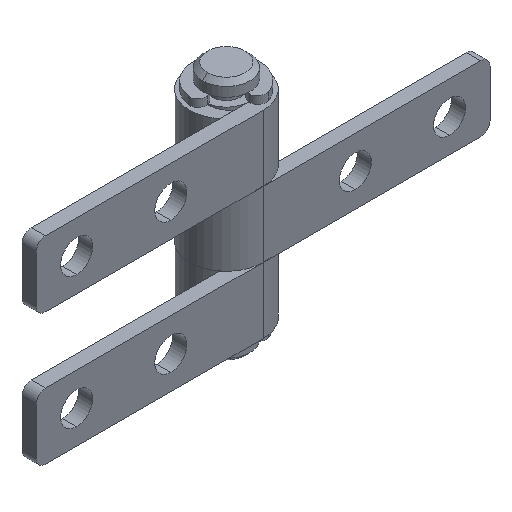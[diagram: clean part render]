
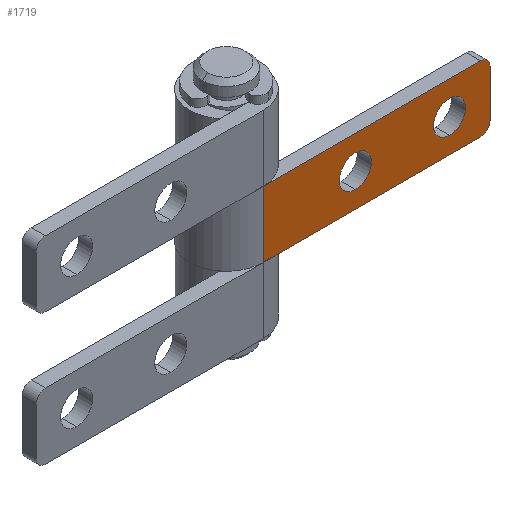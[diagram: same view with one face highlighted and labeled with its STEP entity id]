
A CAD part, isometric view. The second image highlights one B-rep face of the part: STEP entity #1719.
In plain terms, the highlighted planar face has unit normal (0, -1, 0).
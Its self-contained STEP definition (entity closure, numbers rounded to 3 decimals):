
#5 = EDGE_CURVE ( 'NONE', #1187, #631, #1209, .T. ) ;
#21 = AXIS2_PLACEMENT_3D ( 'NONE', #98, #1838, #1385 ) ;
#98 = CARTESIAN_POINT ( 'NONE',  ( 23.1, -3.9, 2.5 ) ) ;
#120 = CARTESIAN_POINT ( 'NONE',  ( 24.1, -3.9, -2.5 ) ) ;
#188 = VERTEX_POINT ( 'NONE', #926 ) ;
#191 = CIRCLE ( 'NONE', #1767, 1. ) ;
#194 = AXIS2_PLACEMENT_3D ( 'NONE', #2035, #1920, #462 ) ;
#201 = CARTESIAN_POINT ( 'NONE',  ( 19.8, -3.9, 0. ) ) ;
#209 = CARTESIAN_POINT ( 'NONE',  ( 0., -3.9, -3.5 ) ) ;
#227 = VECTOR ( 'NONE', #1641, 1000. ) ;
#237 = DIRECTION ( 'NONE',  ( 0., 0., 1. ) ) ;
#247 = EDGE_CURVE ( 'NONE', #1068, #1316, #395, .T. ) ;
#381 = PLANE ( 'NONE',  #795 ) ;
#389 = DIRECTION ( 'NONE',  ( 0., 0., 1. ) ) ;
#395 = LINE ( 'NONE', #630, #1105 ) ;
#410 = ORIENTED_EDGE ( 'NONE', *, *, #1865, .T. ) ;
#428 = VERTEX_POINT ( 'NONE', #496 ) ;
#462 = DIRECTION ( 'NONE',  ( 0., 0., 1. ) ) ;
#464 = EDGE_CURVE ( 'NONE', #1249, #1316, #191, .T. ) ;
#487 = DIRECTION ( 'NONE',  ( 0., 1., 0. ) ) ;
#490 = DIRECTION ( 'NONE',  ( 0., 1., 0. ) ) ;
#496 = CARTESIAN_POINT ( 'NONE',  ( 19.8, -3.9, -1.7 ) ) ;
#590 = FACE_BOUND ( 'NONE', #2046, .T. ) ;
#600 = VERTEX_POINT ( 'NONE', #1191 ) ;
#625 = EDGE_CURVE ( 'NONE', #1187, #600, #829, .T. ) ;
#630 = CARTESIAN_POINT ( 'NONE',  ( 24.1, -3.9, 3.5 ) ) ;
#631 = VERTEX_POINT ( 'NONE', #209 ) ;
#644 = ORIENTED_EDGE ( 'NONE', *, *, #625, .F. ) ;
#663 = ORIENTED_EDGE ( 'NONE', *, *, #5, .T. ) ;
#729 = AXIS2_PLACEMENT_3D ( 'NONE', #201, #490, #1170 ) ;
#763 = ORIENTED_EDGE ( 'NONE', *, *, #1528, .T. ) ;
#768 = AXIS2_PLACEMENT_3D ( 'NONE', #1973, #1765, #1297 ) ;
#795 = AXIS2_PLACEMENT_3D ( 'NONE', #1024, #1527, #389 ) ;
#829 = LINE ( 'NONE', #859, #1241 ) ;
#836 = DIRECTION ( 'NONE',  ( 0., 0., 1. ) ) ;
#859 = CARTESIAN_POINT ( 'NONE',  ( 0., -3.9, 3.5 ) ) ;
#879 = CARTESIAN_POINT ( 'NONE',  ( 0., -3.9, 3.5 ) ) ;
#888 = DIRECTION ( 'NONE',  ( 0., -1., 0. ) ) ;
#890 = ORIENTED_EDGE ( 'NONE', *, *, #1071, .T. ) ;
#926 = CARTESIAN_POINT ( 'NONE',  ( 9.8, -3.9, 1.7 ) ) ;
#930 = CARTESIAN_POINT ( 'NONE',  ( 9.8, -3.9, -1.7 ) ) ;
#1003 = CARTESIAN_POINT ( 'NONE',  ( 24.1, -3.9, 2.5 ) ) ;
#1024 = CARTESIAN_POINT ( 'NONE',  ( 0., -3.9, 3.5 ) ) ;
#1053 = CARTESIAN_POINT ( 'NONE',  ( 0., -3.9, 3.5 ) ) ;
#1068 = VERTEX_POINT ( 'NONE', #1003 ) ;
#1071 = EDGE_CURVE ( 'NONE', #1301, #428, #1873, .T. ) ;
#1078 = CIRCLE ( 'NONE', #21, 1. ) ;
#1105 = VECTOR ( 'NONE', #1917, 1000. ) ;
#1151 = DIRECTION ( 'NONE',  ( 1., 0., 0. ) ) ;
#1157 = EDGE_CURVE ( 'NONE', #1068, #600, #1078, .T. ) ;
#1166 = CARTESIAN_POINT ( 'NONE',  ( 9.8, -3.9, 0. ) ) ;
#1170 = DIRECTION ( 'NONE',  ( 0., 0., 1. ) ) ;
#1187 = VERTEX_POINT ( 'NONE', #1053 ) ;
#1191 = CARTESIAN_POINT ( 'NONE',  ( 23.1, -3.9, 3.5 ) ) ;
#1192 = CARTESIAN_POINT ( 'NONE',  ( 23.1, -3.9, -2.5 ) ) ;
#1209 = LINE ( 'NONE', #879, #1649 ) ;
#1241 = VECTOR ( 'NONE', #1151, 1000. ) ;
#1244 = CIRCLE ( 'NONE', #194, 1.7 ) ;
#1249 = VERTEX_POINT ( 'NONE', #1585 ) ;
#1296 = LINE ( 'NONE', #1317, #227 ) ;
#1297 = DIRECTION ( 'NONE',  ( 0., 0., 1. ) ) ;
#1301 = VERTEX_POINT ( 'NONE', #1764 ) ;
#1316 = VERTEX_POINT ( 'NONE', #120 ) ;
#1317 = CARTESIAN_POINT ( 'NONE',  ( 0., -3.9, -3.5 ) ) ;
#1338 = AXIS2_PLACEMENT_3D ( 'NONE', #1166, #487, #836 ) ;
#1383 = EDGE_LOOP ( 'NONE', ( #890, #1696 ) ) ;
#1385 = DIRECTION ( 'NONE',  ( 0., 0., 1. ) ) ;
#1387 = EDGE_CURVE ( 'NONE', #428, #1301, #1244, .T. ) ;
#1399 = VERTEX_POINT ( 'NONE', #930 ) ;
#1425 = ORIENTED_EDGE ( 'NONE', *, *, #247, .F. ) ;
#1495 = EDGE_CURVE ( 'NONE', #631, #1249, #1296, .T. ) ;
#1527 = DIRECTION ( 'NONE',  ( 0., 1., 0. ) ) ;
#1528 = EDGE_CURVE ( 'NONE', #188, #1399, #1579, .T. ) ;
#1537 = DIRECTION ( 'NONE',  ( 0., 0., -1. ) ) ;
#1579 = CIRCLE ( 'NONE', #1338, 1.7 ) ;
#1585 = CARTESIAN_POINT ( 'NONE',  ( 23.1, -3.9, -3.5 ) ) ;
#1598 = ORIENTED_EDGE ( 'NONE', *, *, #464, .T. ) ;
#1641 = DIRECTION ( 'NONE',  ( 1., 0., 0. ) ) ;
#1649 = VECTOR ( 'NONE', #1537, 1000. ) ;
#1680 = CIRCLE ( 'NONE', #768, 1.7 ) ;
#1696 = ORIENTED_EDGE ( 'NONE', *, *, #1387, .T. ) ;
#1719 = ADVANCED_FACE ( 'NONE', ( #590, #2001, #1822 ), #381, .F. ) ;
#1764 = CARTESIAN_POINT ( 'NONE',  ( 19.8, -3.9, 1.7 ) ) ;
#1765 = DIRECTION ( 'NONE',  ( 0., 1., 0. ) ) ;
#1767 = AXIS2_PLACEMENT_3D ( 'NONE', #1192, #888, #237 ) ;
#1822 = FACE_OUTER_BOUND ( 'NONE', #2059, .T. ) ;
#1835 = ORIENTED_EDGE ( 'NONE', *, *, #1157, .T. ) ;
#1838 = DIRECTION ( 'NONE',  ( 0., -1., 0. ) ) ;
#1846 = ORIENTED_EDGE ( 'NONE', *, *, #1495, .T. ) ;
#1865 = EDGE_CURVE ( 'NONE', #1399, #188, #1680, .T. ) ;
#1873 = CIRCLE ( 'NONE', #729, 1.7 ) ;
#1917 = DIRECTION ( 'NONE',  ( 0., 0., -1. ) ) ;
#1920 = DIRECTION ( 'NONE',  ( 0., 1., 0. ) ) ;
#1973 = CARTESIAN_POINT ( 'NONE',  ( 9.8, -3.9, 0. ) ) ;
#2001 = FACE_BOUND ( 'NONE', #1383, .T. ) ;
#2035 = CARTESIAN_POINT ( 'NONE',  ( 19.8, -3.9, 0. ) ) ;
#2046 = EDGE_LOOP ( 'NONE', ( #763, #410 ) ) ;
#2059 = EDGE_LOOP ( 'NONE', ( #1846, #1598, #1425, #1835, #644, #663 ) ) ;
